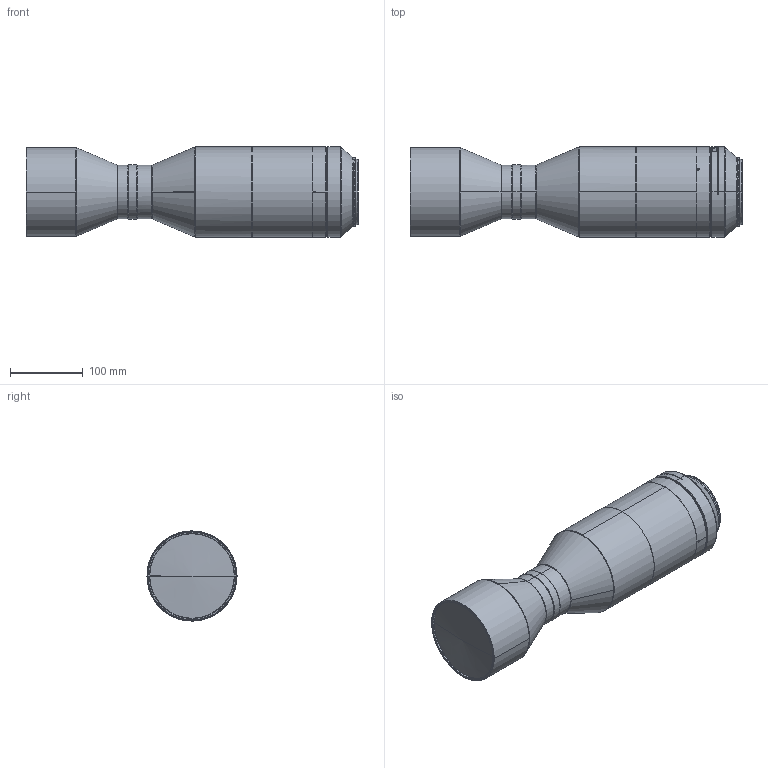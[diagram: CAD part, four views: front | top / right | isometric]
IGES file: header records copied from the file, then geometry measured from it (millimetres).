
Start section: SolidWorks IGES file using analytic representation for surfaces
Bounding box: 457.19 x 124 x 124 mm (x, y, z)
Surface area: 186997.7 mm2 (no closed solid volume)
Topology: 0 solids, 0 shells, 112 faces, 2032 edges, 2030 vertices
Faces by surface type: revolution 84, bspline 28
